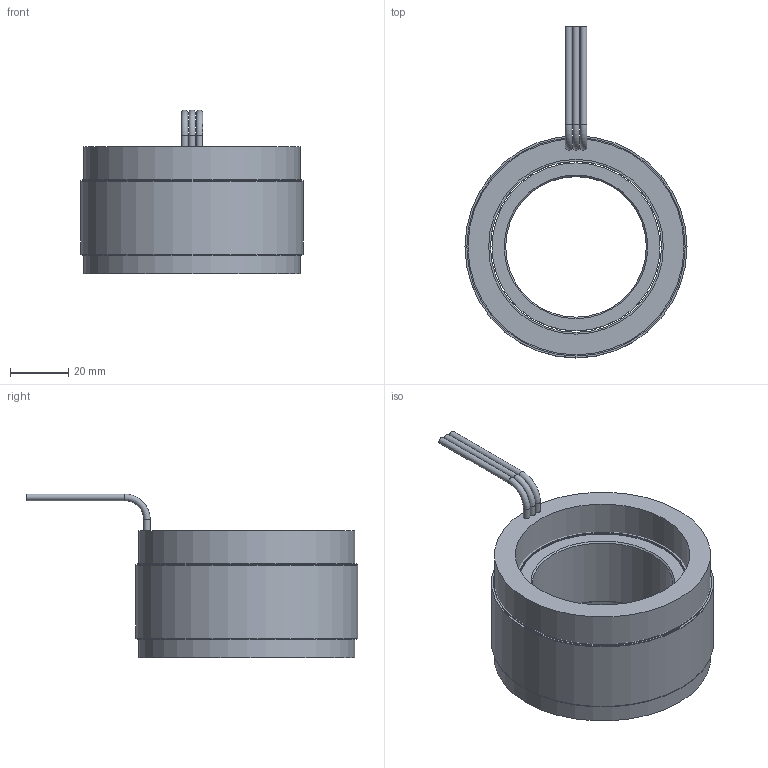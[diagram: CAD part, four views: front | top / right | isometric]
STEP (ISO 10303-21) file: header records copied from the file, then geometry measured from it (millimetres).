
FILE_DESCRIPTION (( 'STEP AP214' ), '1' );
FILE_NAME ('6100392-02.STEP', '2020-12-15T02:59:30', ( '' ), ( '' ), 'SwSTEP 2.0', 'SolidWorks 2016', '' );
FILE_SCHEMA (( 'AUTOMOTIVE_DESIGN' ));
Length unit declared in the file: inch
Products named in the file (10): 4450190-XX_4450190-02; COMP4500559-XX(COIL)_COMP4500559-02(COIL); 4600566-00; 6100392-02; 4500559-XX_4500559-02; 4400102-00; 4250380-XX_4250380-02; 4150179-XX_4150179-02
Assembly tree (10 placements, depth 4):
  6100392-02
    4500559-XX_4500559-02
      4450190-XX_4450190-02
        4450190-XX_4450190-02
        4400102-00
        4400102-00
        4600566-00  x2
      COMP4500559-XX(COIL)_COMP4500559-02(COIL)
    4250380-XX_4250380-02
      4150179-XX_4150179-02
Bounding box: 76.2 x 113.84 x 56.26 mm (x, y, z)
Volume: 133908.3 mm3; surface area: 61336.1 mm2
Topology: 7 solids, 7 shells, 42 faces, 67 edges, 42 vertices
Faces by surface type: cylinder 20, plane 17, torus 3, cone 2
Full cylindrical faces by diameter (mm): 2.286 x6, 48.26 x1, 57.658 x1, 58.674 x5, 59.944 x1, 74.168 x1, 74.93 x2, 76.2 x3
Entity records: 1204 total; most frequent: DIRECTION 184, CARTESIAN_POINT 130, AXIS2_PLACEMENT_3D 92, ORIENTED_EDGE 76, EDGE_LOOP 76, FACE_OUTER_BOUND 59, EDGE_CURVE 38, ADVANCED_FACE 38
